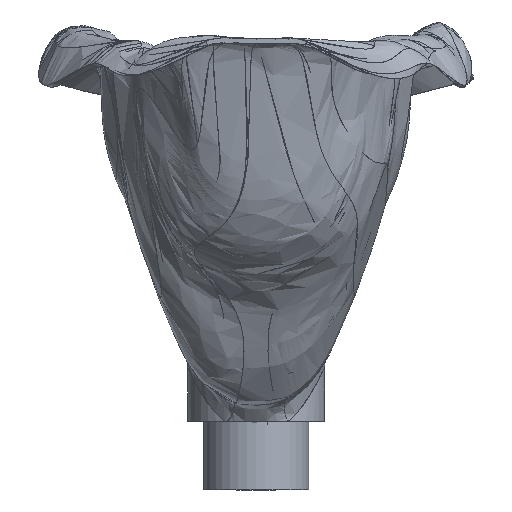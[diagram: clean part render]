
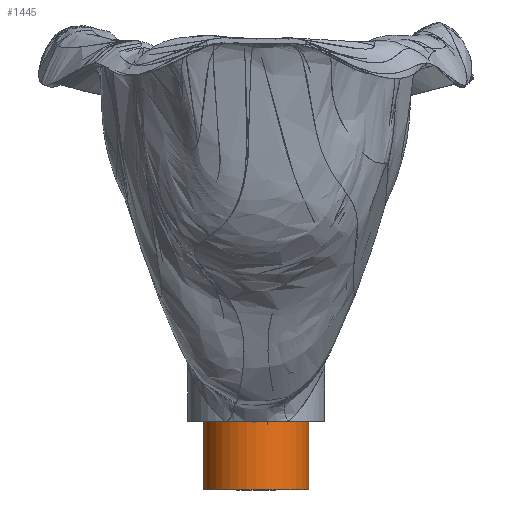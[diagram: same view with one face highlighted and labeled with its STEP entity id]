
A CAD part, front view. The second image highlights one B-rep face of the part: STEP entity #1445.
In plain terms, the highlighted cylindrical face has radius 10 mm (diameter 20 mm), a partial arc.
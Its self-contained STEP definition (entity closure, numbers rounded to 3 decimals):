
#99=FACE_OUTER_BOUND('',#144,.T.);
#144=EDGE_LOOP('',(#1312,#1313,#1314,#1315));
#191=CIRCLE('',#1599,10.);
#192=CIRCLE('',#1600,10.);
#225=LINE('',#19855,#255);
#226=LINE('',#19859,#256);
#255=VECTOR('',#1748,13.);
#256=VECTOR('',#1751,13.);
#718=VERTEX_POINT('',#19853);
#719=VERTEX_POINT('',#19854);
#720=VERTEX_POINT('',#19856);
#721=VERTEX_POINT('',#19858);
#1015=EDGE_CURVE('',#718,#719,#225,.T.);
#1016=EDGE_CURVE('',#719,#720,#191,.T.);
#1017=EDGE_CURVE('',#720,#721,#226,.T.);
#1018=EDGE_CURVE('',#721,#718,#192,.T.);
#1312=ORIENTED_EDGE('',*,*,#1015,.T.);
#1313=ORIENTED_EDGE('',*,*,#1016,.T.);
#1314=ORIENTED_EDGE('',*,*,#1017,.T.);
#1315=ORIENTED_EDGE('',*,*,#1018,.T.);
#1362=CYLINDRICAL_SURFACE('',#1598,10.);
#1445=ADVANCED_FACE('',(#99),#1362,.T.);
#1598=AXIS2_PLACEMENT_3D('',#19852,#1746,#1747);
#1599=AXIS2_PLACEMENT_3D('',#19857,#1749,#1750);
#1600=AXIS2_PLACEMENT_3D('',#19860,#1752,#1753);
#1746=DIRECTION('center_axis',(0.,0.,-1.));
#1747=DIRECTION('ref_axis',(-1.,0.,0.));
#1748=DIRECTION('',(0.,0.,1.));
#1749=DIRECTION('center_axis',(0.,0.,-1.));
#1750=DIRECTION('ref_axis',(1.,0.,0.));
#1751=DIRECTION('',(0.,0.,-1.));
#1752=DIRECTION('center_axis',(0.,0.,1.));
#1753=DIRECTION('ref_axis',(1.,0.,0.));
#19852=CARTESIAN_POINT('Origin',(0.,13.,-13.5));
#19853=CARTESIAN_POINT('',(10.,13.,-20.));
#19854=CARTESIAN_POINT('',(10.,13.,-7.));
#19855=CARTESIAN_POINT('',(10.,13.,-20.));
#19856=CARTESIAN_POINT('',(-10.,13.,-7.));
#19857=CARTESIAN_POINT('Origin',(0.,13.,
-7.));
#19858=CARTESIAN_POINT('',(-10.,13.,-20.));
#19859=CARTESIAN_POINT('',(-10.,13.,-7.));
#19860=CARTESIAN_POINT('Origin',(0.,13.,-20.));
